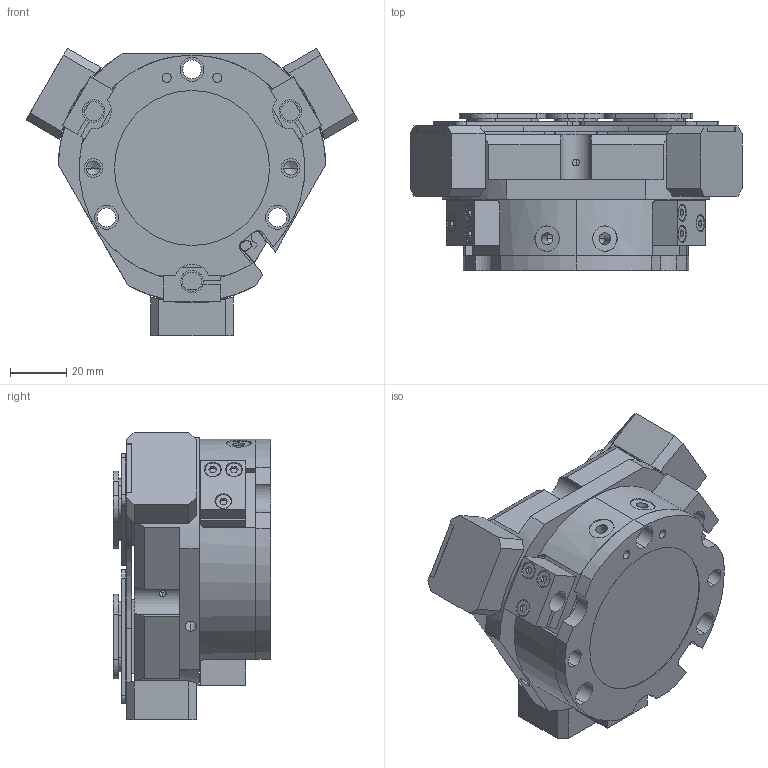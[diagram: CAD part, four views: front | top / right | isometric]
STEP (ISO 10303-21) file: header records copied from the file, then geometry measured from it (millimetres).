
FILE_DESCRIPTION (( 'STEP AP214' ), '1' );
FILE_NAME ('FCT 80A-1-SD.STEP', '2021-09-17T04:49:45', ( 'DEEP' ), ( 'Microsoft' ), 'SwSTEP 2.0', 'SolidWorks 2016', '' );
FILE_SCHEMA (( 'AUTOMOTIVE_DESIGN' ));
Length unit declared in the file: millimetre
Products named in the file (30): FCT 80A-1-005; FCT 80A-1-SD-002; FCT 80A-1-003; FCT 80A-1-SD-001; FCT 80A-1-002; FCT 80A-1-001; FCT 80A-1-004; FCT 80A-1-SD-004; FCT 80A-1-SD; FCT 80A-1-SD-005
Assembly tree (20 placements, depth 3):
  FCT 80A-1-SD-002
  FCT 80A-1-SD-001
  FCT 80A-1-SD-001
  FCT 80A-1-SD-001
  FCT 80A-1-005
Bounding box: 117.76 x 55.8 x 101.98 mm (x, y, z)
Volume: 267330.3 mm3; surface area: 90418.5 mm2
Topology: 19 solids, 19 shells, 834 faces, 2144 edges, 1382 vertices
Faces by surface type: plane 469, cylinder 293, cone 72
Entity records: 17504 total; most frequent: CARTESIAN_POINT 3377, DIRECTION 2834, ORIENTED_EDGE 2684, EDGE_CURVE 1342, AXIS2_PLACEMENT_3D 995, VERTEX_POINT 878, VECTOR 844, LINE 844
